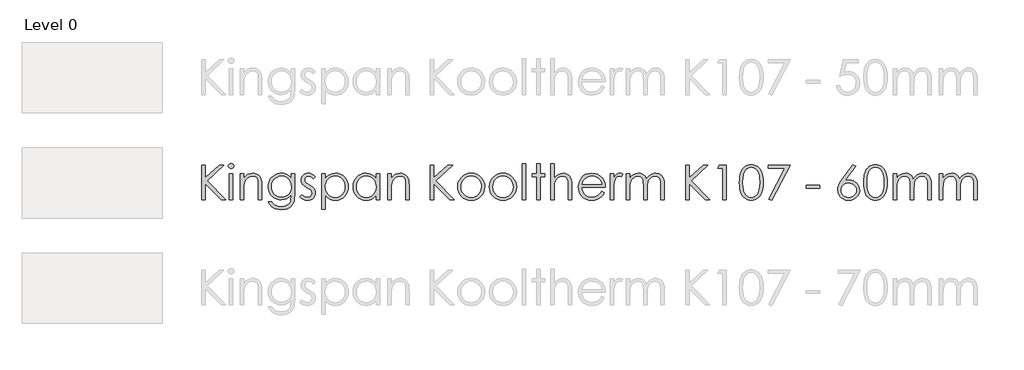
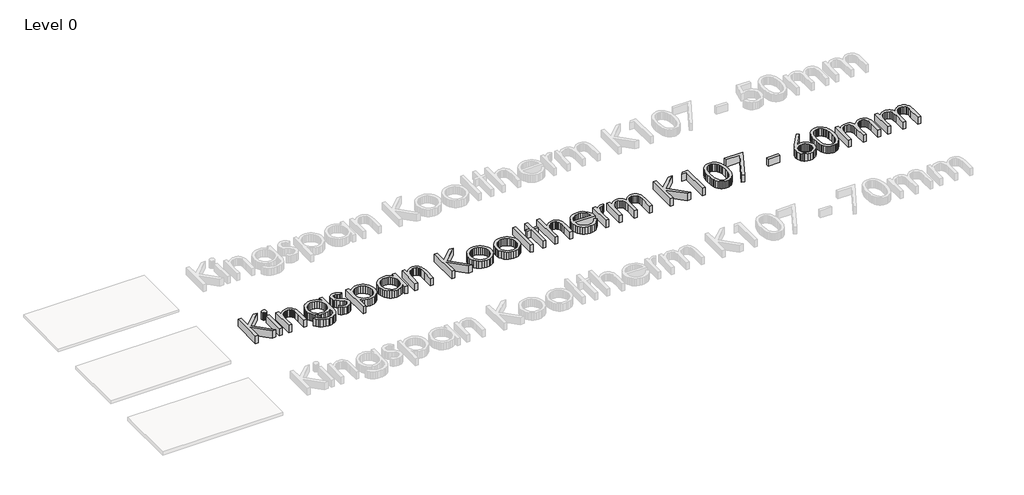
# One storey, part 10 of 13: 1 proxy.
"""IFC4 building model written with IfcOpenShell, lengths in millimetres."""

from ifc_helpers import new_model, si_unit, origin, origin_with_axes, place, context, project, spatial, polyline, outline, extrude, element, save

model = new_model("IFC4")

# Units and contexts
model_context = context("Model", 3, world=origin())
ifc_project = project(units=[si_unit("LENGTHUNIT", "METRE", prefix="MILLI")], contexts=[model_context])

# Site, building, storey
site = spatial("IfcSite", under=ifc_project)
building = spatial("IfcBuilding", under=site)
storey = spatial("IfcBuildingStorey", under=building, Name="Level 0", Elevation=0.0)

# Proxy
placement = place(None, origin())
element("IfcBuildingElementProxy", 1, Name="600mm KI_CenturyGothic", ObjectType="600mm KI_CenturyGothic", at=placement, inside=storey, context=model_context, shape_type="SweptSolid", body=[
    extrude(outline(polyline([(-3852.2663848, 500.8965983), (-3792.944575, 500.8965983), (-3792.944575, 281.683973), (-3555.1938841, 500.8965983), (-3471.6181051, 500.8965983), (-3760.9664119, 233.9484541), (-3441.9572002, -92.3214999), (-3520.8984627, -92.3214999), (-3792.944575, 185.9039675), (-3792.944575, -92.3214999), (-3852.2663848, -92.3214999), (-3852.2663848, 500.8965983)])), origin_with_axes(), (0.0, 0.0, 1.0), 150.0),
    extrude(outline(polyline([(-3348.1854852, 530.5575033), (-3329.145347, 527.2747208), (-3313.1176445, 517.4263735), (-3302.226531, 502.9821307), (-3298.5961598, 485.911662), (-3302.226531, 469.0729191), (-3313.1176445, 454.7059183), (-3329.145347, 444.857571), (-3348.1854852, 441.5747885), (-3366.9938975, 444.857571), (-3382.9443581, 454.7059183), (-3393.8354717, 469.0729191), (-3397.4658428, 485.911662), (-3393.8354717, 502.9821307), (-3382.9443581, 517.4263735), (-3366.9938975, 527.2747208), (-3348.1854852, 530.5575033)])), origin_with_axes(), (0.0, 0.0, 1.0), 150.0),
    extrude(outline(polyline([(-3377.6919062, 352.5920738), (-3318.3700964, 352.5920738), (-3318.3700964, -92.3214999), (-3377.6919062, -92.3214999), (-3377.6919062, 352.5920738)])), origin_with_axes(), (0.0, 0.0, 1.0), 150.0),
    extrude(outline(polyline([(-3189.8395084, 352.5920738), (-3130.5176986, 352.5920738), (-3130.5176986, 273.4963274), (-3096.9946967, 313.0055796), (-3060.0730495, 340.696815), (-3019.7141359, 357.0334853), (-2975.879335, 362.4790421), (-2953.4357238, 360.9004099), (-2932.2955704, 356.1645135), (-2912.4588747, 348.2713528), (-2893.9256368, 337.2209277), (-2877.212412, 323.4960006), (-2862.835756, 307.5793333), (-2841.0921499, 269.1707787), (-2833.6238199, 244.7912914), (-2828.2892984, 214.4448643), (-2824.0216812, 135.8511905), (-2824.0216812, -92.3214999), (-2883.343491, -92.3214999), (-2883.343491, 120.8662542), (-2883.343491, 223.907002), (-2884.7290183, 244.7043943), (-2889.8125035, 262.7596977), (-2898.2849788, 278.0729123), (-2910.1464442, 290.644038), (-2924.7403432, 300.4441091), (-2941.4101193, 307.4441599), (-2980.977303, 313.0442006), (-3005.3471351, 310.8862539), (-3028.4038541, 304.4124138), (-3050.1474602, 293.6226803), (-3070.5779533, 278.5170534), (-3088.6622225, 260.2348518), (-3103.3671568, 239.915394), (-3114.6927562, 217.55868), (-3122.6390208, 193.1647099), (-3128.5480292, 146.0857475), (-3130.5176986, 71.5858965), (-3130.5176986, -92.3214999), (-3189.8395084, -92.3214999), (-3189.8395084, 352.5920738)])), origin_with_axes(), (0.0, 0.0, 1.0), 150.0),
    extrude(outline(polyline([(-2319.7862977, 352.5920738), (-2260.4644879, 352.5920738), (-2260.4644879, 1.604699), (-2264.5196897, -78.6496765), (-2269.588692, -109.4499001), (-2276.6852953, -134.0321474), (-2289.9371156, -162.6454585), (-2307.2924139, -187.7732271), (-2328.7511904, -209.4154531), (-2354.3134448, -227.5721366), (-2383.3226209, -241.9343098), (-2415.122162, -252.1930049), (-2449.7120682, -258.348222), (-2487.0923395, -260.3999611), (-2541.0458345, -256.3833802), (-2589.206184, -244.3336376), (-2630.260275, -225.5059147), (-2662.8949946, -201.1553932), (-2690.2000204, -167.8061856), (-2715.2650299, -121.9824048), (-2655.94322, -121.9824048), (-2642.4355358, -143.151524), (-2627.0933555, -161.3951046), (-2609.9166791, -176.7131468), (-2590.9055067, -189.1056506), (-2569.7894914, -198.6691682), (-2546.2982864, -205.5002523), (-2492.1903075, -210.9651195), (-2438.5071593, -205.6354257), (-2415.083541, -198.9733084), (-2393.93856, -189.6463441), (-2359.6624492, -165.6047903), (-2336.8567664, -136.1176798), (-2329.3884364, -117.4782342), (-2324.0539149, -93.7697863), (-2319.7862977, -31.1458835), (-2319.7862977, -8.4367532), (-2354.757586, -44.2190818), (-2396.6420279, -70.6165148), (-2443.392712, -86.8952536), (-2492.9627269, -92.3214999), (-2522.4063889, -90.4242447), (-2550.9521133, -84.7324793), (-2578.5999001, -75.2462036), (-2605.3497494, -61.9654175), (-2630.1540674, -45.4742634), (-2651.9652601, -26.3568832), (-2670.7833277, -4.6132772), (-2686.6082702, 19.7565549), (-2699.1456025, 46.0719183), (-2708.1008399, 73.6521184), (-2713.4739824, 102.4971553), (-2715.2650299, 132.607029), (-2713.3967404, 162.8955247), (-2707.7918722, 192.1219437), (-2698.4504251, 220.286286), (-2685.3723991, 247.3885517), (-2668.9971079, 272.5742517), (-2649.7638648, 294.9888971), (-2627.67267, 314.632488), (-2602.7235235, 331.5050242), (-2575.9833294, 345.056157), (-2548.5189922, 354.7355376), (-2520.3305117, 360.543166), (-2491.4178881, 362.4790421), (-2444.5320306, 357.5355579), (-2400.8903346, 342.7051055), (-2359.6045177, 316.1338782), (-2319.7862977, 275.9680694), (-2319.7862977, 352.5920738)]), holes=[polyline([(-2484.1571458, 313.0442006), (-2529.0154023, 307.0193293), (-2570.5908765, 288.9447153), (-2606.2187212, 260.2300242), (-2633.2340897, 222.2849212), (-2650.2659375, 178.0059792), (-2655.94322, 130.2897708), (-2653.0080263, 94.3770964), (-2644.2024452, 61.7182387), (-2629.5264766, 32.3131977), (-2608.9801206, 6.1619734), (-2583.7606272, -15.296803), (-2555.0652466, -30.6245004), (-2522.8939786, -39.8211189), (-2487.2468234, -42.8866584), (-2451.3244937, -39.845257), (-2419.1001219, -30.7210528), (-2390.573708, -15.5140459), (-2365.7452519, 5.7757637), (-2345.6382095, 32.0187128), (-2331.2760363, 62.0851379), (-2322.6587323, 95.975039), (-2319.7862977, 133.6884162), (-2325.0773706, 182.3894593), (-2340.9505892, 225.6063246), (-2366.4983608, 261.8327944), (-2400.8130926, 289.5626508), (-2440.9982119, 307.1738131), (-2484.1571458, 313.0442006)])]), origin_with_axes(), (0.0, 0.0, 1.0), 150.0),
    extrude(outline(polyline([(-1904.5336289, 301.3034257), (-1940.9918246, 263.609359), (-1962.9575012, 285.2371022), (-1984.6721416, 300.6854902), (-2006.1357456, 309.954523), (-2027.3483133, 313.0442006), (-2052.181597, 308.3710632), (-2073.2300256, 294.3516511), (-2087.5970264, 274.1142629), (-2092.3860267, 250.787197), (-2088.4466878, 229.2366958), (-2076.628671, 208.7675817), (-2052.0657341, 186.599145), (-2010.2006027, 160.877579), (-1958.3326401, 128.0111336), (-1939.8428507, 112.1861912), (-1926.315856, 96.7667689), (-1909.9791857, 64.0934284), (-1904.5336289, 27.5579908), (-1906.9474396, 1.4115941), (-1914.1888714, -22.6492701), (-1926.2579245, -44.624602), (-1943.1545989, -64.5144015), (-1963.6719892, -81.0055557), (-1986.6031901, -92.7849515), (-2011.9482016, -99.852589), (-2039.7070237, -102.2084682), (-2077.4397114, -98.3270607), (-2113.3958344, -86.6828383), (-2145.4512394, -68.2027042), (-2171.4817731, -43.8135617), (-2135.7959969, -3.3387852), (-2114.0041146, -24.9665283), (-2091.5749863, -40.4149163), (-2068.5086121, -49.6839491), (-2044.8049918, -52.7736267), (-2013.637869, -47.1349651), (-1987.4914724, -30.2189802), (-1969.7644472, -5.6560434), (-1963.8554388, 22.9234744), (-1967.7561567, 46.7139919), (-1979.4583106, 67.7237995), (-2005.0253927, 89.4287846), (-2050.2119275, 116.2317378), (-2099.762632, 146.8967879), (-2117.441381, 162.0555186), (-2130.3890611, 177.0983864), (-2146.3781427, 209.2310334), (-2151.7078365, 245.689229), (-2149.5305794, 269.7356104), (-2142.9988078, 291.6674937), (-2132.1125219, 311.4848789), (-2116.8717217, 329.187766), (-2098.309518, 343.7526993), (-2077.4590218, 354.1562231), (-2054.3202332, 360.3983373), (-2028.8931521, 362.4790421), (-1997.9481, 358.6555661), (-1966.9064954, 347.185138), (-1935.7683384, 328.0677579), (-1904.5336289, 301.3034257)])), origin_with_axes(), (0.0, 0.0, 1.0), 150.0),
    extrude(outline(polyline([(-1795.7769776, 352.5920738), (-1736.4551678, 352.5920738), (-1736.4551678, 271.4880369), (-1700.9238754, 311.7310876), (-1660.4490989, 340.0788795), (-1614.9922173, 356.8790014), (-1564.5146096, 362.4790421), (-1520.0618732, 358.2403906), (-1478.9305402, 345.5244363), (-1441.1206107, 324.331179), (-1406.6320845, 294.6606189), (-1377.9077381, 259.0231189), (-1357.3903478, 219.929042), (-1345.0799137, 177.3783884), (-1340.9764356, 131.371158), (-1345.0412927, 84.4708176), (-1357.235864, 41.2491246), (-1377.5601494, 1.706079), (-1406.014149, -34.1583192), (-1440.2130179, -63.9302594), (-1477.7719111, -85.1959309), (-1518.6908288, -97.9553339), (-1562.9697708, -102.2084682), (-1612.6170277, -96.743601), (-1658.0545988, -80.3489992), (-1699.3211052, -53.1019049), (-1736.4551678, -15.07956), (-1736.4551678, -250.5129928), (-1795.7769776, -250.5129928), (-1795.7769776, 352.5920738)]), holes=[polyline([(-1568.5311905, 313.0442006), (-1602.5852307, 309.7469353), (-1633.8392507, 299.8551393), (-1662.2932503, 283.3688128), (-1687.9472295, 260.2879556), (-1709.1694525, 232.3022353), (-1724.3281832, 201.1013192), (-1733.4234216, 166.6852074), (-1736.4551678, 129.0538998), (-1731.048232, 80.1983728), (-1714.8274246, 36.5180558), (-1688.5265441, -0.3263495), (-1652.8793888, -28.6741414), (-1611.4390881, -46.7487554), (-1567.7587711, -52.7736267), (-1525.0632888, -46.7101344), (-1485.0326535, -28.5196576), (-1450.2544701, 0.5812433), (-1423.3163435, 39.3760076), (-1406.05277, 84.0411593), (-1400.2982454, 130.7532225), (-1405.9948385, 177.6970114), (-1423.0846177, 222.1304373), (-1449.8103289, 260.4810605), (-1484.414718, 289.1764411), (-1524.7157001, 307.0772607), (-1568.5311905, 313.0442006)])]), origin_with_axes(), (0.0, 0.0, 1.0), 150.0),
    extrude(outline(polyline([(-807.0801472, 352.5920738), (-807.0801472, -92.3214999), (-866.401957, -92.3214999), (-866.401957, -16.4699149), (-903.4780882, -54.3184655), (-944.8797679, -81.0441767), (-990.4525125, -96.9173953), (-1040.0418379, -102.2084682), (-1084.3159523, -97.9553339), (-1125.2203871, -85.1959309), (-1162.7551422, -63.9302594), (-1196.9202178, -34.1583192), (-1225.340424, 1.706079), (-1245.6405713, 41.2491246), (-1257.8206597, 84.4708176), (-1261.8806892, 131.371158), (-1257.7820388, 177.3783884), (-1245.4860875, 219.929042), (-1224.9928353, 259.0231189), (-1196.3022822, 294.6606189), (-1161.8475494, 324.331179), (-1124.061758, 345.5244363), (-1082.9449079, 358.2403906), (-1038.4969991, 362.4790421), (-987.7490446, 356.8790014), (-942.0990581, 340.0788795), (-921.2051134, 327.3918909), (-901.6242816, 311.7310876), (-866.401957, 271.4880369), (-866.401957, 352.5920738), (-807.0801472, 352.5920738)]), holes=[polyline([(-1034.3259343, 313.0442006), (-1078.1414247, 307.0772607), (-1118.4424068, 289.1764411), (-1153.0467959, 260.4810605), (-1179.7725071, 222.1304373), (-1196.8622863, 177.6970114), (-1202.5588794, 130.7532225), (-1196.8043548, 84.0411593), (-1179.5407813, 39.3760076), (-1152.6026548, 0.5812433), (-1117.8244713, -28.5196576), (-1077.6779731, -46.7101344), (-1034.6349021, -52.7736267), (-991.0125165, -46.7487554), (-949.7460102, -28.6741414), (-914.2726493, -0.3263495), (-888.0297002, 36.5180558), (-871.8088928, 80.1983728), (-866.401957, 129.0538998), (-869.4337032, 166.6852074), (-878.5289416, 201.1013192), (-893.6876723, 232.3022353), (-914.9098953, 260.2879556), (-940.5638746, 283.3688128), (-969.0178742, 299.8551393), (-1000.2718941, 309.7469353), (-1034.3259343, 313.0442006)])]), origin_with_axes(), (0.0, 0.0, 1.0), 150.0),
    extrude(outline(polyline([(-668.662591, 352.5920738), (-609.3407811, 352.5920738), (-609.3407811, 273.4963274), (-575.8177792, 313.0055796), (-538.896132, 340.696815), (-498.5372184, 357.0334853), (-454.7024175, 362.4790421), (-432.2588064, 360.9004099), (-411.1186529, 356.1645135), (-391.2819572, 348.2713528), (-372.7487193, 337.2209277), (-356.0354946, 323.4960006), (-341.6588385, 307.5793333), (-319.9152324, 269.1707787), (-312.4469024, 244.7912914), (-307.1123809, 214.4448643), (-302.8447637, 135.8511905), (-302.8447637, -92.3214999), (-362.1665735, -92.3214999), (-362.1665735, 120.8662542), (-362.1665735, 223.907002), (-363.5521008, 244.7043943), (-368.635586, 262.7596977), (-377.1080613, 278.0729123), (-388.9695267, 290.644038), (-403.5634257, 300.4441091), (-420.2332018, 307.4441599), (-459.8003855, 313.0442006), (-484.1702176, 310.8862539), (-507.2269366, 304.4124138), (-528.9705427, 293.6226803), (-549.4010358, 278.5170534), (-567.485305, 260.2348518), (-582.1902393, 239.915394), (-593.5158387, 217.55868), (-601.4621033, 193.1647099), (-607.3711117, 146.0857475), (-609.3407811, 71.5858965), (-609.3407811, -92.3214999), (-668.662591, -92.3214999), (-668.662591, 352.5920738)])), origin_with_axes(), (0.0, 0.0, 1.0), 150.0),
    extrude(outline(polyline([(62.9730635, 500.8965983), (122.2948734, 500.8965983), (122.2948734, 281.683973), (360.0455643, 500.8965983), (443.6213432, 500.8965983), (154.2730365, 233.9484541), (473.2822481, -92.3214999), (394.3409856, -92.3214999), (122.2948734, 185.9039675), (122.2948734, -92.3214999), (62.9730635, -92.3214999), (62.9730635, 500.8965983)])), origin_with_axes(), (0.0, 0.0, 1.0), 150.0),
    extrude(outline(polyline([(760.1588128, 362.4790421), (809.4681362, 357.8541809), (854.3553585, 343.9795975), (894.8204798, 320.8552917), (930.8635, 288.4812637), (957.7630055, 253.2492839), (976.9769381, 214.908316), (988.5052976, 173.45836), (992.3480841, 128.8994159), (988.283227, 84.0846079), (976.0886558, 42.1760279), (955.7643703, 3.1736759), (927.3103707, -32.9224481), (892.4742558, -63.2350819), (853.0036246, -84.8869632), (808.8984769, -97.8780919), (760.1588128, -102.2084682), (711.2839754, -97.8780919), (667.0822753, -84.8869632), (627.5537126, -63.2350819), (592.6982872, -32.9224481), (564.2442876, 3.1736759), (543.9200022, 42.1760279), (531.7254309, 84.0846079), (527.6605738, 128.8994159), (531.5033603, 173.2652551), (543.0317198, 214.5993482), (562.2456524, 252.9016951), (589.145158, 288.1722959), (625.2074886, 320.6814974), (665.7305413, 343.9023555), (710.7143161, 357.8348705), (760.1588128, 362.4790421)]), holes=[polyline([(760.004329, 313.0442006), (725.7282181, 309.6696933), (693.9624704, 299.5461716), (664.7070856, 282.6736353), (637.962064, 259.0520846), (615.6584538, 230.6415336), (599.7273037, 199.4019965), (590.1686137, 165.3334734), (586.9823836, 128.4359643), (592.7948396, 80.7004454), (610.2322075, 36.3635719), (637.5758543, -1.4270471), (673.1071466, -29.5238028), (714.6439998, -46.9611707), (760.004329, -52.7736267), (805.3646581, -46.9611707), (846.9015113, -29.5238028), (882.4328037, -1.4270471), (909.7764504, 36.3635719), (927.2138183, 80.7004454), (933.0262743, 128.4359643), (929.8255614, 165.3334734), (920.2234227, 199.4019965), (904.2198583, 230.6415336), (881.8148681, 259.0520846), (854.9974321, 282.6736353), (825.7565303, 299.5461716), (794.0921625, 309.6696933), (760.004329, 313.0442006)])]), origin_with_axes(), (0.0, 0.0, 1.0), 150.0),
    extrude(outline(polyline([(1303.9420695, 362.4790421), (1353.2513929, 357.8541809), (1398.1386152, 343.9795975), (1438.6037365, 320.8552917), (1474.6467567, 288.4812637), (1501.5462622, 253.2492839), (1520.7601948, 214.908316), (1532.2885543, 173.45836), (1536.1313408, 128.8994159), (1532.0664837, 84.0846079), (1519.8719125, 42.1760279), (1499.547627, 3.1736759), (1471.0936274, -32.9224481), (1436.2575126, -63.2350819), (1396.7868813, -84.8869632), (1352.6817336, -97.8780919), (1303.9420695, -102.2084682), (1255.0672321, -97.8780919), (1210.865532, -84.8869632), (1171.3369693, -63.2350819), (1136.4815439, -32.9224481), (1108.0275443, 3.1736759), (1087.7032589, 42.1760279), (1075.5086876, 84.0846079), (1071.4438305, 128.8994159), (1075.286617, 173.2652551), (1086.8149766, 214.5993482), (1106.0289091, 252.9016951), (1132.9284147, 288.1722959), (1168.9907453, 320.6814974), (1209.5137981, 343.9023555), (1254.4975728, 357.8348705), (1303.9420695, 362.4790421)]), holes=[polyline([(1303.7875857, 313.0442006), (1269.5114748, 309.6696933), (1237.7457271, 299.5461716), (1208.4903423, 282.6736353), (1181.7453207, 259.0520846), (1159.4417105, 230.6415336), (1143.5105604, 199.4019965), (1133.9518704, 165.3334734), (1130.7656404, 128.4359643), (1136.5780963, 80.7004454), (1154.0154643, 36.3635719), (1181.359111, -1.4270471), (1216.8904033, -29.5238028), (1258.4272565, -46.9611707), (1303.7875857, -52.7736267), (1349.1479149, -46.9611707), (1390.684768, -29.5238028), (1426.2160604, -1.4270471), (1453.5597071, 36.3635719), (1470.997075, 80.7004454), (1476.809531, 128.4359643), (1473.6088181, 165.3334734), (1464.0066795, 199.4019965), (1448.003115, 230.6415336), (1425.5981249, 259.0520846), (1398.7806889, 282.6736353), (1369.539787, 299.5461716), (1337.8754193, 309.6696933), (1303.7875857, 313.0442006)])]), origin_with_axes(), (0.0, 0.0, 1.0), 150.0),
    extrude(outline(polyline([(1635.0010238, 520.6705349), (1694.3228337, 520.6705349), (1694.3228337, -92.3214999), (1635.0010238, -92.3214999), (1635.0010238, 520.6705349)])), origin_with_axes(), (0.0, 0.0, 1.0), 150.0),
    extrude(outline(polyline([(1882.1752314, 520.6705349), (1941.4970413, 520.6705349), (1941.4970413, 352.5920738), (2020.5927877, 352.5920738), (2020.5927877, 303.1572323), (1941.4970413, 303.1572323), (1941.4970413, -92.3214999), (1882.1752314, -92.3214999), (1882.1752314, 303.1572323), (1803.079485, 303.1572323), (1803.079485, 352.5920738), (1882.1752314, 352.5920738), (1882.1752314, 520.6705349)])), origin_with_axes(), (0.0, 0.0, 1.0), 150.0),
    extrude(outline(polyline([(2119.4624707, 520.6705349), (2178.7842806, 520.6705349), (2178.7842806, 271.9514886), (2212.5583188, 311.6538456), (2249.6151394, 339.9243956), (2289.9161216, 356.8403805), (2333.4226442, 362.4790421), (2355.8662553, 360.9004099), (2377.0064088, 356.1645135), (2396.8431044, 348.2713528), (2415.3763424, 337.2209277), (2432.0895671, 323.5104834), (2446.4662232, 307.6372648), (2468.2098293, 269.4025045), (2475.6781593, 245.0954316), (2481.0126808, 214.7345216), (2485.280298, 135.8511905), (2485.280298, -92.3214999), (2425.9584882, -92.3214999), (2425.9584882, 120.8662542), (2424.5681332, 185.247411), (2420.3970685, 223.907002), (2406.879729, 262.7596977), (2397.1665551, 278.0729123), (2385.4837117, 290.644038), (2371.840854, 300.4441091), (2356.2476374, 307.4441599), (2319.2101273, 313.0442006), (2296.3416854, 310.8862539), (2274.6994594, 304.4124138), (2254.2834492, 293.6226803), (2235.0936547, 278.5170534), (2218.1052556, 260.2348518), (2204.2934312, 239.915394), (2193.6581816, 217.55868), (2186.1995068, 193.1647099), (2180.6380871, 146.3174733), (2178.7842806, 71.5858965), (2178.7842806, -92.3214999), (2119.4624707, -92.3214999), (2119.4624707, 520.6705349)])), origin_with_axes(), (0.0, 0.0, 1.0), 150.0),
    extrude(outline(polyline([(2991.0605203, 55.9830247), (3038.950523, 30.8021523), (3013.3255094, -11.0822896), (2984.0315038, -44.0452875), (2950.952643, -69.1296074), (2913.9730643, -87.3780157), (2872.4941426, -98.5008551), (2825.9172528, -102.2084682), (2774.4258447, -97.7767119), (2728.8627554, -84.481443), (2689.227985, -62.3226615), (2655.5215335, -31.3003674), (2628.6220279, 5.3026569), (2609.4080954, 44.2036288), (2597.8797358, 85.4025485), (2594.0369493, 128.8994159), (2597.3197318, 169.7797126), (2607.1680791, 208.381372), (2623.5819913, 244.7043943), (2646.5614684, 278.7487793), (2682.7493173, 315.3807692), (2724.5758277, 341.5464764), (2772.0409998, 357.2459007), (2825.1448334, 362.4790421), (2879.7935059, 357.1107273), (2928.6490329, 341.0057828), (2971.7114143, 314.1642087), (3008.9806503, 276.5860049), (3030.4539096, 244.414737), (3045.9022976, 208.458614), (3055.3258143, 168.7176359), (3058.7244596, 125.1918028), (2653.3587591, 125.1918028), (2657.095338, 87.9370497), (2666.6057518, 54.1871496), (2681.8900007, 23.9421025), (2702.9480845, -2.7980916), (2728.3124066, -24.6623882), (2756.5153699, -40.2797429), (2787.5569744, -49.6501557), (2821.4372203, -52.7736267), (2854.9602222, -49.761191), (2887.5563208, -40.7238841), (2917.2944677, -26.6851615), (2942.2436143, -8.668479), (2965.725164, 17.4972281), (2991.0605203, 55.9830247)]), holes=[polyline([(2999.4026498, 174.6266443), (2984.9777175, 217.1483322), (2965.1844704, 250.1692615), (2939.0766947, 275.6977226), (2905.7081767, 295.742006), (2867.7630738, 308.7186519), (2827.9255433, 313.0442006), (2795.503239, 310.3310774), (2765.4368139, 302.191708), (2737.726268, 288.6260923), (2712.3716012, 269.6342304), (2695.8321708, 251.820308), (2681.4362043, 230.0477362), (2669.1837016, 204.316515), (2659.0746627, 174.6266443), (2999.4026498, 174.6266443)])]), origin_with_axes(), (0.0, 0.0, 1.0), 150.0),
    extrude(outline(polyline([(3137.820206, 352.5920738), (3197.1420159, 352.5920738), (3197.1420159, 288.1722959), (3222.6897875, 321.2125357), (3249.589293, 344.3271862), (3277.7632906, 357.9410781), (3307.1345382, 362.4790421), (3330.4616041, 358.694187), (3355.3335087, 347.3396219), (3325.8270877, 305.3200066), (3297.2475699, 313.0442006), (3270.8308265, 307.0965712), (3245.3409863, 289.2536831), (3223.2884125, 258.8976007), (3207.183468, 215.4103886), (3199.6523789, 157.2858288), (3197.1420159, 59.8451217), (3197.1420159, -92.3214999), (3137.820206, -92.3214999), (3137.820206, 352.5920738)])), origin_with_axes(), (0.0, 0.0, 1.0), 150.0),
    extrude(outline(polyline([(3414.6553185, 352.5920738), (3473.9771284, 352.5920738), (3473.9771284, 276.4315211), (3503.5607913, 312.9283377), (3533.9168737, 338.0705891), (3577.3268439, 356.3769288), (3622.8995884, 362.4790421), (3653.7384329, 359.331433), (3682.9165757, 349.8886059), (3708.6767627, 335.2126373), (3729.2617397, 316.365604), (3746.0425511, 290.9336953), (3760.3902414, 256.5031006), (3775.16759, 280.9018983), (3791.6925376, 302.191708), (3809.965084, 320.3725296), (3829.9852293, 335.4443631), (3851.2798666, 347.2720352), (3873.375889, 355.7203723), (3896.2732965, 360.7893747), (3919.9720892, 362.4790421), (3962.3006723, 356.6665861), (3981.4952943, 349.4010161), (3999.3768034, 339.2292182), (4015.4914031, 326.46016), (4029.385297, 311.4028093), (4050.5109676, 274.4232306), (4057.8103309, 251.0478886), (4063.0241619, 222.4780261), (4067.1952266, 149.7547397), (4067.1952266, -92.3214999), (4007.8734168, -92.3214999), (4007.8734168, 153.3078689), (4005.4209852, 214.4255538), (3998.0636904, 252.8727294), (3984.7587663, 277.3391139), (3964.4634466, 296.5144254), (3938.3942919, 308.9117568), (3907.7678627, 313.0442006), (3888.1194443, 311.4945341), (3869.3399976, 306.8455349), (3834.3880198, 288.2495379), (3805.6540182, 259.3031209), (3785.8800816, 222.0531954), (3779.1889985, 197.8957787), (3774.4096535, 166.8252084), (3770.5861775, 83.9446069), (3770.5861775, -92.3214999), (3711.2643677, -92.3214999), (3711.2643677, 138.0139648), (3708.850557, 206.469634), (3701.6091252, 248.7016647), (3688.3621325, 274.9446137), (3667.9316394, 295.4330383), (3641.6114484, 308.64141), (3610.6953619, 313.0442006), (3573.7544042, 307.0000188), (3539.2465676, 288.8674734), (3510.2808401, 260.500371), (3489.9662099, 223.7525181), (3477.9743988, 171.9231764), (3473.9771284, 98.3116077), (3473.9771284, -92.3214999), (3414.6553185, -92.3214999), (3414.6553185, 352.5920738)])), origin_with_axes(), (0.0, 0.0, 1.0), 150.0),
    extrude(outline(polyline([(4433.0130538, 500.8965983), (4492.3348637, 500.8965983), (4492.3348637, 281.683973), (4730.0855546, 500.8965983), (4813.6613335, 500.8965983), (4524.3130268, 233.9484541), (4843.3222385, -92.3214999), (4764.3809759, -92.3214999), (4492.3348637, 185.9039675), (4492.3348637, -92.3214999), (4433.0130538, -92.3214999), (4433.0130538, 500.8965983)])), origin_with_axes(), (0.0, 0.0, 1.0), 150.0),
    extrude(outline(polyline([(5010.6282802, 500.8965983), (5125.1008351, 500.8965983), (5125.1008351, -92.3214999), (5065.7790253, -92.3214999), (5065.7790253, 451.4617568), (4976.7963106, 451.4617568), (5010.6282802, 500.8965983)])), origin_with_axes(), (0.0, 0.0, 1.0), 150.0),
    extrude(outline(polyline([(5352.5011061, 204.1330653), (5354.0797383, 258.5644948), (5358.8156347, 306.4593252), (5366.7087954, 347.8175564), (5377.7592204, 382.6391884), (5391.6869077, 412.2807828), (5408.2118552, 438.0989012), (5427.334063, 460.0935436), (5449.053531, 478.26471), (5472.747496, 492.4917098), (5497.793195, 502.6538525), (5524.190628, 508.7511381), (5551.9397949, 510.7835666), (5580.1427582, 508.7366552), (5606.974677, 502.595921), (5632.4355515, 492.361364), (5656.5253815, 478.0329841), (5678.7083011, 459.6156091), (5698.4484443, 437.1140665), (5715.7458112, 410.5283563), (5730.6004018, 379.8584786), (5742.5294539, 344.3416691), (5751.0502054, 303.2151637), (5756.1626563, 256.4789625), (5757.8668066, 204.1330653), (5756.1867944, 151.9464797), (5751.1467578, 105.3792452), (5742.7466968, 64.4313618), (5730.9866115, 29.1028296), (5716.2768496, -1.4222195), (5699.0277589, -27.9596535), (5679.2393394, -50.5094723), (5656.9115912, -69.071676), (5632.6527944, -83.5690226), (5607.0712295, -93.9242701), (5580.1668963, -100.1374187), (5551.9397949, -102.2084682), (5524.2147661, -100.2001778), (5497.8897474, -94.1753064), (5472.964739, -84.1338543), (5449.4397407, -70.0758212), (5427.8651013, -52.0398282), (5408.7911698, -30.0644964), (5392.2179461, -4.1498255), (5378.1454301, 25.7041842), (5366.9260384, 60.7237487), (5358.9121871, 102.1350837), (5354.1038764, 149.9381893), (5352.5011061, 204.1330653)]), holes=[polyline([(5411.8229159, 204.2875492), (5416.206396, 115.961391), (5421.6857461, 80.9804475), (5429.3568363, 52.1209277), (5439.1713903, 27.8814414), (5451.0811319, 6.7605985), (5465.0860611, -11.2416011), (5481.1861779, -26.1251574), (5516.4857445, -46.1115094), (5534.8886366, -51.1080973), (5553.7936014, -52.7736267), (5572.7854634, -51.1418907), (5591.1400794, -46.2466828), (5625.9375733, -26.665851), (5641.694929, -11.9898824), (5655.4439943, 5.9302476), (5667.1847692, 27.0945392), (5676.9172536, 51.5029922), (5686.3793912, 84.8618549), (5693.138061, 121.4455687), (5698.5449967, 204.2875492), (5693.7173755, 285.8936587), (5687.682849, 320.5849449), (5679.2345118, 351.2017189), (5668.652366, 377.864671), (5656.2164137, 400.6944918), (5641.9266548, 419.6911814), (5625.7830894, 434.8547397), (5590.7152487, 454.7252288), (5572.4861509, 459.692851), (5553.7936014, 461.3487251), (5534.7776014, 459.692851), (5516.3505711, 454.7252288), (5481.2634199, 434.8547397), (5465.3177869, 420.0435978), (5451.3900996, 402.1041572), (5439.480358, 381.0364181), (5429.5885621, 356.8403805), (5421.8160919, 327.9856883), (5416.2643275, 292.9419857), (5411.8229159, 204.2875492)])]), origin_with_axes(), (0.0, 0.0, 1.0), 150.0),
    extrude(outline(polyline([(5846.8495213, 500.8965983), (6222.5543169, 500.8965983), (5906.1713311, -102.2084682), (5852.2564571, -79.8083056), (6130.9453762, 451.4617568), (5846.8495213, 451.4617568), (5846.8495213, 500.8965983)])), origin_with_axes(), (0.0, 0.0, 1.0), 150.0),
    extrude(outline(polyline([(6499.3894294, 154.8527077), (6726.7897004, 154.8527077), (6726.7897004, 105.4178662), (6499.3894294, 105.4178662), (6499.3894294, 154.8527077)])), origin_with_axes(), (0.0, 0.0, 1.0), 150.0),
    extrude(outline(polyline([(7290.3468937, 510.7835666), (7342.7169289, 485.1392426), (7166.605306, 239.0464222), (7229.1712773, 243.8354224), (7265.2915394, 240.7650553), (7298.5731603, 231.553954), (7329.0161398, 216.2021184), (7356.6204781, 194.7095487), (7379.5323685, 168.7272912), (7395.8980045, 139.9063923), (7405.7173861, 108.2468522), (7408.9905133, 73.7486708), (7407.4601574, 49.6974618), (7402.8690896, 26.8241924), (7395.2173099, 5.1288625), (7384.5048184, -15.3885278), (7370.9826513, -34.2934926), (7354.9018449, -51.1515459), (7315.0643144, -78.7269185), (7268.3715618, -96.3380808), (7218.2029218, -102.2084682), (7169.830157, -96.3573913), (7125.1263843, -78.8041604), (7104.8407198, -65.9192393), (7086.8530031, -50.6687838), (7071.163234, -33.0527939), (7057.7714127, -13.0712696), (7039.4071415, 30.7635313), (7033.2857178, 77.6107678), (7037.1091938, 114.5517256), (7048.5796219, 153.3851108), (7069.8983973, 197.2006012), (7103.2669153, 249.0878744), (7290.3468937, 510.7835666)]), holes=[polyline([(7216.5035992, 194.4005809), (7190.2268567, 192.1412542), (7166.5473745, 185.363274), (7145.4651526, 174.0666402), (7126.9801908, 158.2513531), (7111.9421507, 139.2208701), (7101.2006934, 118.2786492), (7094.755819, 95.4246902), (7092.6075276, 70.6589932), (7094.9585791, 46.0284697), (7102.0117338, 23.2710631), (7113.7669915, 2.3867736), (7130.2243523, -16.6243988), (7150.0127718, -32.439686), (7171.7612055, -43.7363197), (7195.4696534, -50.5142999), (7221.1381155, -52.7736267), (7246.8065777, -50.5142999), (7270.5150256, -43.7363197), (7292.2634593, -32.439686), (7312.0518788, -16.6243988), (7328.5092396, 2.3867736), (7340.2644973, 23.2710631), (7347.317652, 46.0284697), (7349.6687035, 70.6589932), (7347.2307548, 95.4246902), (7339.9169086, 118.2786492), (7327.727165, 139.2208701), (7310.6615239, 158.2513531), (7290.1489612, 174.0666402), (7267.6184529, 185.363274), (7243.0699988, 192.1412542), (7216.5035992, 194.4005809)])]), origin_with_axes(), (0.0, 0.0, 1.0), 150.0),
    extrude(outline(polyline([(7478.1992914, 204.1330653), (7479.7779236, 258.5644948), (7484.51382, 306.4593252), (7492.4069808, 347.8175564), (7503.4574058, 382.6391884), (7517.3850931, 412.2807828), (7533.9100406, 438.0989012), (7553.0322483, 460.0935436), (7574.7517163, 478.26471), (7598.4456813, 492.4917098), (7623.4913804, 502.6538525), (7649.8888133, 508.7511381), (7677.6379802, 510.7835666), (7705.8409435, 508.7366552), (7732.6728624, 502.595921), (7758.1337368, 492.361364), (7782.2235668, 478.0329841), (7804.4064864, 459.6156091), (7824.1466297, 437.1140665), (7841.4439966, 410.5283563), (7856.2985871, 379.8584786), (7868.2276392, 344.3416691), (7876.7483907, 303.2151637), (7881.8608416, 256.4789625), (7883.5649919, 204.1330653), (7881.8849797, 151.9464797), (7876.8449431, 105.3792452), (7868.4448822, 64.4313618), (7856.6847968, 29.1028296), (7841.9750349, -1.4222195), (7824.7259442, -27.9596535), (7804.9375247, -50.5094723), (7782.6097765, -69.071676), (7758.3509797, -83.5690226), (7732.7694148, -93.9242701), (7705.8650816, -100.1374187), (7677.6379802, -102.2084682), (7649.9129514, -100.2001778), (7623.5879328, -94.1753064), (7598.6629243, -84.1338543), (7575.137926, -70.0758212), (7553.5632867, -52.0398282), (7534.4893551, -30.0644964), (7517.9161314, -4.1498255), (7503.8436155, 25.7041842), (7492.6242237, 60.7237487), (7484.6103725, 102.1350837), (7479.8020617, 149.9381893), (7478.1992914, 204.1330653)]), holes=[polyline([(7537.5211013, 204.2875492), (7541.9045814, 115.961391), (7547.3839315, 80.9804475), (7555.0550216, 52.1209277), (7564.8695756, 27.8814414), (7576.7793172, 6.7605985), (7590.7842464, -11.2416011), (7606.8843633, -26.1251574), (7642.1839298, -46.1115094), (7660.586822, -51.1080973), (7679.4917868, -52.7736267), (7698.4836487, -51.1418907), (7716.8382647, -46.2466828), (7751.6357586, -26.665851), (7767.3931143, -11.9898824), (7781.1421796, 5.9302476), (7792.8829545, 27.0945392), (7802.6154389, 51.5029922), (7812.0775766, 84.8618549), (7818.8362463, 121.4455687), (7824.2431821, 204.2875492), (7819.4155608, 285.8936587), (7813.3810343, 320.5849449), (7804.9326971, 351.2017189), (7794.3505514, 377.864671), (7781.914599, 400.6944918), (7767.6248402, 419.6911814), (7751.4812747, 434.8547397), (7716.413434, 454.7252288), (7698.1843362, 459.692851), (7679.4917868, 461.3487251), (7660.4757867, 459.692851), (7642.0487564, 454.7252288), (7606.9616052, 434.8547397), (7591.0159723, 420.0435978), (7577.088285, 402.1041572), (7565.1785434, 381.0364181), (7555.2867474, 356.8403805), (7547.5142772, 327.9856883), (7541.9625128, 292.9419857), (7537.5211013, 204.2875492)])]), origin_with_axes(), (0.0, 0.0, 1.0), 150.0),
    extrude(outline(polyline([(7982.4346749, 352.5920738), (8041.7564848, 352.5920738), (8041.7564848, 276.4315211), (8071.3401477, 312.9283377), (8101.6962301, 338.0705891), (8145.1062003, 356.3769288), (8190.6789448, 362.4790421), (8221.5177893, 359.331433), (8250.6959321, 349.8886059), (8276.4561191, 335.2126373), (8297.0410961, 316.365604), (8313.8219075, 290.9336953), (8328.1695978, 256.5031006), (8342.9469464, 280.9018983), (8359.471894, 302.191708), (8377.7444404, 320.3725296), (8397.7645856, 335.4443631), (8419.0592229, 347.2720352), (8441.1552454, 355.7203723), (8464.0526529, 360.7893747), (8487.7514456, 362.4790421), (8530.0800287, 356.6665861), (8549.2746507, 349.4010161), (8567.1561598, 339.2292182), (8583.2707595, 326.46016), (8597.1646534, 311.4028093), (8618.290324, 274.4232306), (8625.5896873, 251.0478886), (8630.8035182, 222.4780261), (8634.974583, 149.7547397), (8634.974583, -92.3214999), (8575.6527732, -92.3214999), (8575.6527732, 153.3078689), (8573.2003416, 214.4255538), (8565.8430468, 252.8727294), (8552.5381227, 277.3391139), (8532.242803, 296.5144254), (8506.1736483, 308.9117568), (8475.5472191, 313.0442006), (8455.8988006, 311.4945341), (8437.119354, 306.8455349), (8402.1673762, 288.2495379), (8373.4333746, 259.3031209), (8353.659438, 222.0531954), (8346.9683549, 197.8957787), (8342.1890099, 166.8252084), (8338.3655339, 83.9446069), (8338.3655339, -92.3214999), (8279.0437241, -92.3214999), (8279.0437241, 138.0139648), (8276.6299134, 206.469634), (8269.3884816, 248.7016647), (8256.1414889, 274.9446137), (8235.7109958, 295.4330383), (8209.3908048, 308.64141), (8178.4747183, 313.0442006), (8141.5337606, 307.0000188), (8107.025924, 288.8674734), (8078.0601965, 260.500371), (8057.7455663, 223.7525181), (8045.7537552, 171.9231764), (8041.7564848, 98.3116077), (8041.7564848, -92.3214999), (7982.4346749, -92.3214999), (7982.4346749, 352.5920738)])), origin_with_axes(), (0.0, 0.0, 1.0), 150.0),
    extrude(outline(polyline([(8773.3921393, 352.5920738), (8832.7139491, 352.5920738), (8832.7139491, 276.4315211), (8862.2976121, 312.9283377), (8892.6536944, 338.0705891), (8936.0636646, 356.3769288), (8981.6364092, 362.4790421), (9012.4752537, 359.331433), (9041.6533964, 349.8886059), (9067.4135834, 335.2126373), (9087.9985604, 316.365604), (9104.7793718, 290.9336953), (9119.1270621, 256.5031006), (9133.9044108, 280.9018983), (9150.4293583, 302.191708), (9168.7019047, 320.3725296), (9188.72205, 335.4443631), (9210.0166873, 347.2720352), (9232.1127097, 355.7203723), (9255.0101172, 360.7893747), (9278.7089099, 362.4790421), (9321.037493, 356.6665861), (9340.232115, 349.4010161), (9358.1136241, 339.2292182), (9374.2282238, 326.46016), (9388.1221177, 311.4028093), (9409.2477883, 274.4232306), (9416.5471516, 251.0478886), (9421.7609826, 222.4780261), (9425.9320473, 149.7547397), (9425.9320473, -92.3214999), (9366.6102375, -92.3214999), (9366.6102375, 153.3078689), (9364.1578059, 214.4255538), (9356.8005111, 252.8727294), (9343.495587, 277.3391139), (9323.2002673, 296.5144254), (9297.1311126, 308.9117568), (9266.5046834, 313.0442006), (9246.856265, 311.4945341), (9228.0768183, 306.8455349), (9193.1248405, 288.2495379), (9164.3908389, 259.3031209), (9144.6169023, 222.0531954), (9137.9258192, 197.8957787), (9133.1464742, 166.8252084), (9129.3229982, 83.9446069), (9129.3229982, -92.3214999), (9070.0011884, -92.3214999), (9070.0011884, 138.0139648), (9067.5873778, 206.469634), (9060.3459459, 248.7016647), (9047.0989532, 274.9446137), (9026.6684601, 295.4330383), (9000.3482691, 308.64141), (8969.4321827, 313.0442006), (8932.4912249, 307.0000188), (8897.9833883, 288.8674734), (8869.0176608, 260.500371), (8848.7030306, 223.7525181), (8836.7112195, 171.9231764), (8832.7139491, 98.3116077), (8832.7139491, -92.3214999), (8773.3921393, -92.3214999), (8773.3921393, 352.5920738)])), origin_with_axes(), (0.0, 0.0, 1.0), 150.0),
])

save(model, "model.ifc")
